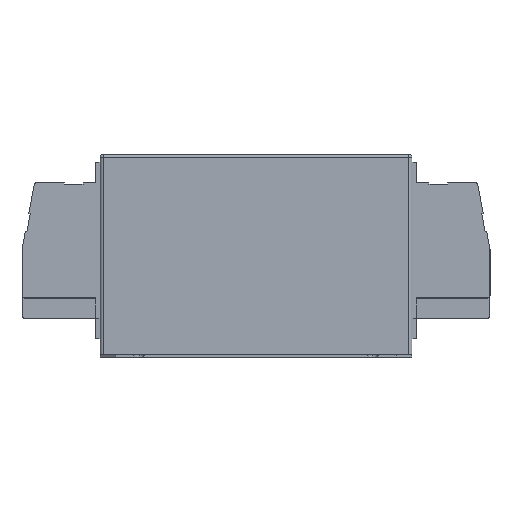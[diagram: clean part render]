
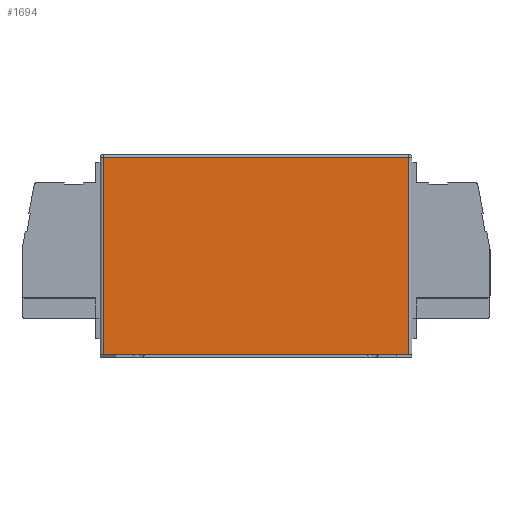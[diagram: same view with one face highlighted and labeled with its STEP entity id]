
A CAD part, top view. The second image highlights one B-rep face of the part: STEP entity #1694.
In plain terms, the highlighted planar face has unit normal (0, 0, 1).
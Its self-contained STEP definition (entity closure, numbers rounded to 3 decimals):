
#547 = EDGE_CURVE ( 'NONE', #1288, #1919, #1936, .T. ) ;
#1174 = PLANE ( 'NONE',  #2990 ) ;
#1231 = DIRECTION ( 'NONE',  ( 0., -1., 0. ) ) ;
#1288 = VERTEX_POINT ( 'NONE', #4334 ) ;
#1289 = VECTOR ( 'NONE', #1231, 1000. ) ;
#1545 = LINE ( 'NONE', #5347, #1289 ) ;
#1694 = ADVANCED_FACE ( 'NONE', ( #9279 ), #1174, .F. ) ;
#1730 = EDGE_CURVE ( 'NONE', #6871, #1288, #6533, .T. ) ;
#1758 = ORIENTED_EDGE ( 'NONE', *, *, #1730, .T. ) ;
#1919 = VERTEX_POINT ( 'NONE', #7230 ) ;
#1936 = LINE ( 'NONE', #5756, #8254 ) ;
#1973 = CARTESIAN_POINT ( 'NONE',  ( 2., 128., -13.5 ) ) ;
#2990 = AXIS2_PLACEMENT_3D ( 'NONE', #10216, #6946, #7786 ) ;
#3233 = LINE ( 'NONE', #6380, #7620 ) ;
#3411 = EDGE_LOOP ( 'NONE', ( #8176, #5325, #1758, #7311 ) ) ;
#3848 = CARTESIAN_POINT ( 'NONE',  ( 0., 1.5, -13.5 ) ) ;
#4334 = CARTESIAN_POINT ( 'NONE',  ( 198., 1.5, -13.5 ) ) ;
#4343 = VECTOR ( 'NONE', #10498, 1000. ) ;
#5325 = ORIENTED_EDGE ( 'NONE', *, *, #6413, .T. ) ;
#5333 = VERTEX_POINT ( 'NONE', #1973 ) ;
#5347 = CARTESIAN_POINT ( 'NONE',  ( 2., 130., -13.5 ) ) ;
#5559 = EDGE_CURVE ( 'NONE', #1919, #5333, #3233, .T. ) ;
#5756 = CARTESIAN_POINT ( 'NONE',  ( 198., 130., -13.5 ) ) ;
#6380 = CARTESIAN_POINT ( 'NONE',  ( 0., 128., -13.5 ) ) ;
#6413 = EDGE_CURVE ( 'NONE', #5333, #6871, #1545, .T. ) ;
#6503 = DIRECTION ( 'NONE',  ( 0., 1., 0. ) ) ;
#6533 = LINE ( 'NONE', #3848, #4343 ) ;
#6871 = VERTEX_POINT ( 'NONE', #7616 ) ;
#6946 = DIRECTION ( 'NONE',  ( 0., 0., -1. ) ) ;
#7230 = CARTESIAN_POINT ( 'NONE',  ( 198., 128., -13.5 ) ) ;
#7311 = ORIENTED_EDGE ( 'NONE', *, *, #547, .T. ) ;
#7616 = CARTESIAN_POINT ( 'NONE',  ( 2., 1.5, -13.5 ) ) ;
#7620 = VECTOR ( 'NONE', #8967, 1000. ) ;
#7786 = DIRECTION ( 'NONE',  ( -1., 0., 0. ) ) ;
#8176 = ORIENTED_EDGE ( 'NONE', *, *, #5559, .T. ) ;
#8254 = VECTOR ( 'NONE', #6503, 1000. ) ;
#8967 = DIRECTION ( 'NONE',  ( -1., 0., 0. ) ) ;
#9279 = FACE_OUTER_BOUND ( 'NONE', #3411, .T. ) ;
#10216 = CARTESIAN_POINT ( 'NONE',  ( 0., 130., -13.5 ) ) ;
#10498 = DIRECTION ( 'NONE',  ( 1., 0., 0. ) ) ;
